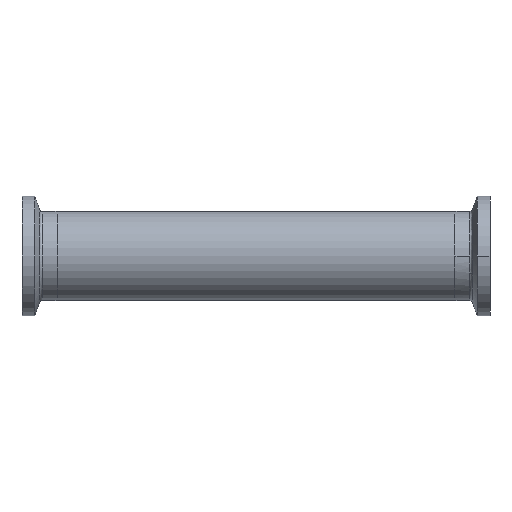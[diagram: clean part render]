
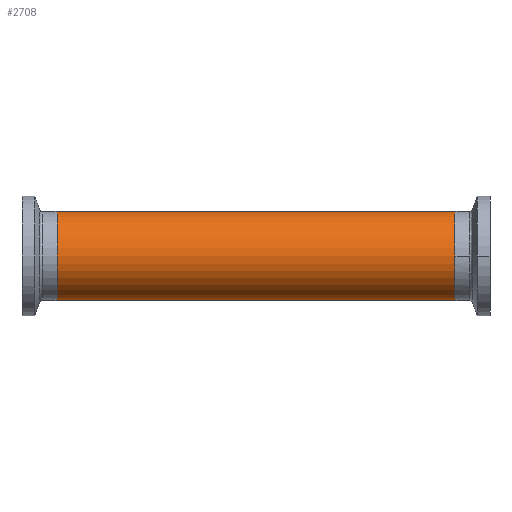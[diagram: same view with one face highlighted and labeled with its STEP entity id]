
A CAD part, front view. The second image highlights one B-rep face of the part: STEP entity #2708.
In plain terms, the highlighted cylindrical face has radius 12.7 mm (diameter 25.4 mm), a partial arc.
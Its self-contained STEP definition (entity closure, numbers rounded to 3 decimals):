
#26 = EDGE_CURVE ( 'NONE', #1521, #1689, #1049, .T. ) ;
#28 = CARTESIAN_POINT ( 'NONE',  ( 56.7, 0., 0. ) ) ;
#87 = EDGE_CURVE ( 'NONE', #1521, #2239, #932, .T. ) ;
#269 = ORIENTED_EDGE ( 'NONE', *, *, #2089, .T. ) ;
#292 = VERTEX_POINT ( 'NONE', #513 ) ;
#304 = CIRCLE ( 'NONE', #345, 12.7 ) ;
#345 = AXIS2_PLACEMENT_3D ( 'NONE', #2124, #2153, #2197 ) ;
#513 = CARTESIAN_POINT ( 'NONE',  ( -56.7, 0., 12.7 ) ) ;
#556 = EDGE_CURVE ( 'NONE', #292, #1689, #304, .T. ) ;
#589 = CARTESIAN_POINT ( 'NONE',  ( 92.621, 0., 0. ) ) ;
#820 = LINE ( 'NONE', #2303, #1945 ) ;
#932 = CIRCLE ( 'NONE', #1568, 12.7 ) ;
#1045 = DIRECTION ( 'NONE',  ( -1., 0., 0. ) ) ;
#1049 = LINE ( 'NONE', #1861, #2110 ) ;
#1220 = DIRECTION ( 'NONE',  ( 0., 0., 1. ) ) ;
#1439 = DIRECTION ( 'NONE',  ( -1., 0., 0. ) ) ;
#1464 = DIRECTION ( 'NONE',  ( 0., 0., 1. ) ) ;
#1521 = VERTEX_POINT ( 'NONE', #2605 ) ;
#1568 = AXIS2_PLACEMENT_3D ( 'NONE', #28, #2592, #1220 ) ;
#1689 = VERTEX_POINT ( 'NONE', #2344 ) ;
#1692 = EDGE_LOOP ( 'NONE', ( #1698, #2261, #269, #2648 ) ) ;
#1698 = ORIENTED_EDGE ( 'NONE', *, *, #26, .F. ) ;
#1828 = AXIS2_PLACEMENT_3D ( 'NONE', #589, #2511, #1464 ) ;
#1861 = CARTESIAN_POINT ( 'NONE',  ( 92.621, 0., -12.7 ) ) ;
#1893 = CYLINDRICAL_SURFACE ( 'NONE', #1828, 12.7 ) ;
#1945 = VECTOR ( 'NONE', #1045, 1000. ) ;
#2089 = EDGE_CURVE ( 'NONE', #2239, #292, #820, .T. ) ;
#2110 = VECTOR ( 'NONE', #1439, 1000. ) ;
#2124 = CARTESIAN_POINT ( 'NONE',  ( -56.7, 0., 0. ) ) ;
#2153 = DIRECTION ( 'NONE',  ( 1., 0., 0. ) ) ;
#2197 = DIRECTION ( 'NONE',  ( 0., 0., 1. ) ) ;
#2239 = VERTEX_POINT ( 'NONE', #2347 ) ;
#2261 = ORIENTED_EDGE ( 'NONE', *, *, #87, .T. ) ;
#2303 = CARTESIAN_POINT ( 'NONE',  ( 92.621, 0., 12.7 ) ) ;
#2344 = CARTESIAN_POINT ( 'NONE',  ( -56.7, 0., -12.7 ) ) ;
#2347 = CARTESIAN_POINT ( 'NONE',  ( 56.7, 0., 12.7 ) ) ;
#2440 = FACE_OUTER_BOUND ( 'NONE', #1692, .T. ) ;
#2511 = DIRECTION ( 'NONE',  ( -1., 0., 0. ) ) ;
#2592 = DIRECTION ( 'NONE',  ( -1., 0., 0. ) ) ;
#2605 = CARTESIAN_POINT ( 'NONE',  ( 56.7, 0., -12.7 ) ) ;
#2648 = ORIENTED_EDGE ( 'NONE', *, *, #556, .T. ) ;
#2708 = ADVANCED_FACE ( 'NONE', ( #2440 ), #1893, .T. ) ;
